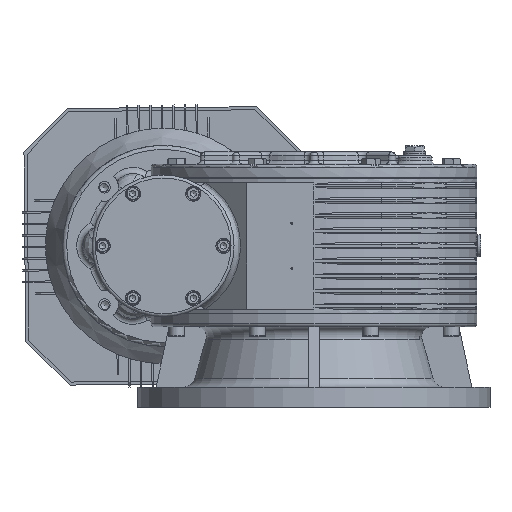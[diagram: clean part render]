
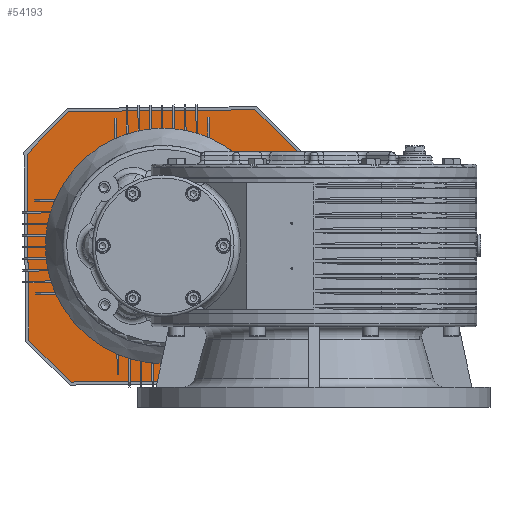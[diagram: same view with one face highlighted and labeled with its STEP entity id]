
A CAD part, left-side view. The second image highlights one B-rep face of the part: STEP entity #54193.
In plain terms, the highlighted planar face has unit normal (-1, 0, 0).
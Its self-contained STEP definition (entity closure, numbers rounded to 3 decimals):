
#53716=CARTESIAN_POINT('',(427.7,0.,57.2));
#53717=VERTEX_POINT('',#53716);
#53718=CARTESIAN_POINT('',(427.7,0.,0.));
#53719=DIRECTION('',(-1.0,0.0,0.0));
#53720=DIRECTION('',(0.0,0.0,-1.0));
#53721=AXIS2_PLACEMENT_3D('',#53718,#53719,#53720);
#53722=CIRCLE('',#53721,57.2);
#53723=EDGE_CURVE('',#53717,#53717,#53722,.T.);
#53736=CARTESIAN_POINT('',(427.7,-92.417,134.5));
#53737=VERTEX_POINT('',#53736);
#53738=CARTESIAN_POINT('',(427.7,92.417,134.5));
#53739=VERTEX_POINT('',#53738);
#53740=CARTESIAN_POINT('',(427.7,-92.417,134.5));
#53741=DIRECTION('',(0.0,1.0,0.0));
#53742=VECTOR('',#53741,184.833);
#53743=LINE('',#53740,#53742);
#53744=EDGE_CURVE('',#53737,#53739,#53743,.T.);
#53825=CARTESIAN_POINT('',(427.7,134.5,92.417));
#53826=VERTEX_POINT('',#53825);
#53827=CARTESIAN_POINT('',(427.7,92.417,134.5));
#53828=DIRECTION('',(0.0,0.707,-0.707));
#53829=VECTOR('',#53828,59.515);
#53830=LINE('',#53827,#53829);
#53831=EDGE_CURVE('',#53739,#53826,#53830,.T.);
#53856=CARTESIAN_POINT('',(427.7,134.5,-92.417));
#53857=VERTEX_POINT('',#53856);
#53858=CARTESIAN_POINT('',(427.7,134.5,92.417));
#53859=DIRECTION('',(0.0,0.0,-1.0));
#53860=VECTOR('',#53859,184.833);
#53861=LINE('',#53858,#53860);
#53862=EDGE_CURVE('',#53826,#53857,#53861,.T.);
#53936=CARTESIAN_POINT('',(427.7,92.417,-134.5));
#53937=VERTEX_POINT('',#53936);
#53938=CARTESIAN_POINT('',(427.7,134.5,-92.417));
#53939=DIRECTION('',(0.0,-0.707,-0.707));
#53940=VECTOR('',#53939,59.515);
#53941=LINE('',#53938,#53940);
#53942=EDGE_CURVE('',#53857,#53937,#53941,.T.);
#53967=CARTESIAN_POINT('',(427.7,-92.417,-134.5));
#53968=VERTEX_POINT('',#53967);
#53969=CARTESIAN_POINT('',(427.7,92.417,-134.5));
#53970=DIRECTION('',(0.0,-1.0,0.0));
#53971=VECTOR('',#53970,184.833);
#53972=LINE('',#53969,#53971);
#53973=EDGE_CURVE('',#53937,#53968,#53972,.T.);
#54047=CARTESIAN_POINT('',(427.7,-134.5,-92.417));
#54048=VERTEX_POINT('',#54047);
#54049=CARTESIAN_POINT('',(427.7,-92.417,-134.5));
#54050=DIRECTION('',(0.0,-0.707,0.707));
#54051=VECTOR('',#54050,59.515);
#54052=LINE('',#54049,#54051);
#54053=EDGE_CURVE('',#53968,#54048,#54052,.T.);
#54078=CARTESIAN_POINT('',(427.7,-134.5,92.417));
#54079=VERTEX_POINT('',#54078);
#54080=CARTESIAN_POINT('',(427.7,-134.5,-92.417));
#54081=DIRECTION('',(0.0,0.0,1.0));
#54082=VECTOR('',#54081,184.833);
#54083=LINE('',#54080,#54082);
#54084=EDGE_CURVE('',#54048,#54079,#54083,.T.);
#54158=CARTESIAN_POINT('',(427.7,-134.5,92.417));
#54159=DIRECTION('',(0.0,0.707,0.707));
#54160=VECTOR('',#54159,59.515);
#54161=LINE('',#54158,#54160);
#54162=EDGE_CURVE('',#54079,#53737,#54161,.T.);
#54175=CARTESIAN_POINT('',(427.7,0.,0.0));
#54176=DIRECTION('',(1.0,0.0,0.0));
#54177=DIRECTION('',(0.0,0.0,-1.0));
#54178=AXIS2_PLACEMENT_3D('',#54175,#54176,#54177);
#54179=PLANE('',#54178);
#54180=ORIENTED_EDGE('',*,*,#53744,.T.);
#54181=ORIENTED_EDGE('',*,*,#53831,.T.);
#54182=ORIENTED_EDGE('',*,*,#53862,.T.);
#54183=ORIENTED_EDGE('',*,*,#53942,.T.);
#54184=ORIENTED_EDGE('',*,*,#53973,.T.);
#54185=ORIENTED_EDGE('',*,*,#54053,.T.);
#54186=ORIENTED_EDGE('',*,*,#54084,.T.);
#54187=ORIENTED_EDGE('',*,*,#54162,.T.);
#54188=EDGE_LOOP('',(#54180,#54181,#54182,#54183,#54184,#54185,#54186,#54187));
#54189=FACE_OUTER_BOUND('',#54188,.T.);
#54190=ORIENTED_EDGE('',*,*,#53723,.F.);
#54191=EDGE_LOOP('',(#54190));
#54192=FACE_BOUND('',#54191,.T.);
#54193=ADVANCED_FACE('',(#54189,#54192),#54179,.F.);
